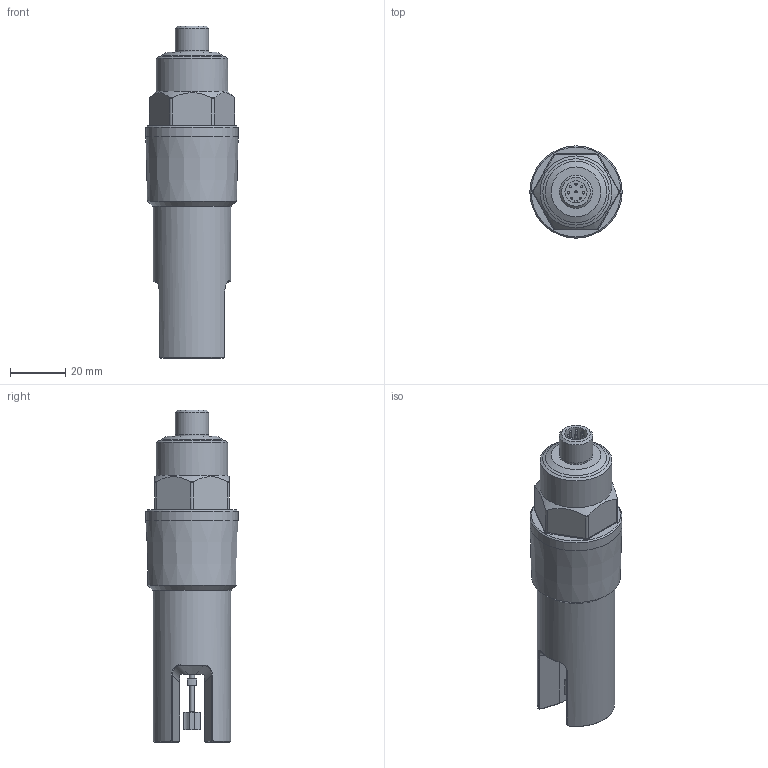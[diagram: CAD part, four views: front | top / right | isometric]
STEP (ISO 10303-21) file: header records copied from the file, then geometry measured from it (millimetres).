
FILE_DESCRIPTION(/* description */ ('Unknown'),/* implementation_level */ '2;1');
FILE_NAME(/* name */ 'DVP-X1-1N0',/* time_stamp */ '2025-12-04T08:40:56-05:00',/* author */ ('Unknown'),/* organization */ ('Unknown'),/* preprocessor_version */ 'ST-DEVELOPER v20',/* originating_system */ 'Solid Edge',/* authorisation */ 'Unknown');
FILE_SCHEMA (('AUTOMOTIVE_DESIGN {1 0 10303 214 3 1 1}'));
Length unit declared in the file: millimetre
Products named in the file (1): PDM_008531
Bounding box: 33.4 x 33.4 x 120.15 mm (x, y, z)
Volume: 66472.5 mm3; surface area: 13097.1 mm2
Topology: 1 solids, 1 shells, 169 faces, 412 edges, 251 vertices
Faces by surface type: plane 70, cylinder 47, cone 30, torus 10, sphere 8, bspline 4
Full cylindrical faces by diameter (mm): 0.8 x8, 1.6 x2, 1.9 x1, 2.03 x2, 8 x1, 12 x2, 26 x1, 28 x1, 33.401 x1
Entity records: 4781 total; most frequent: CARTESIAN_POINT 1109, DIRECTION 778, ORIENTED_EDGE 684, EDGE_CURVE 342, AXIS2_PLACEMENT_3D 308, VERTEX_POINT 232, EDGE_LOOP 226, FACE_BOUND 226
